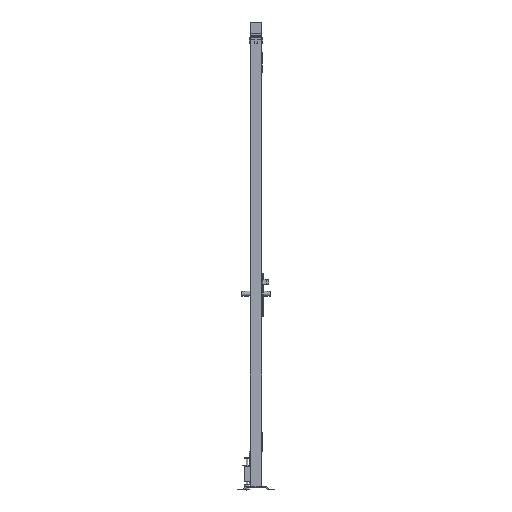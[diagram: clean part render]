
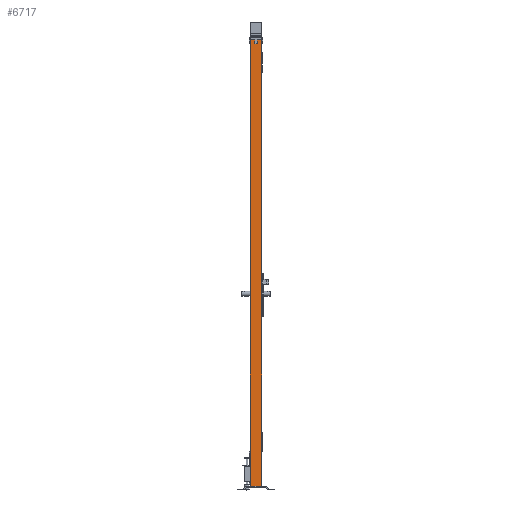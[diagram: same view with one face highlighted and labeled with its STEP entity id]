
A CAD part, left-side view. The second image highlights one B-rep face of the part: STEP entity #6717.
In plain terms, the highlighted planar face has unit normal (-1, 0, 0).
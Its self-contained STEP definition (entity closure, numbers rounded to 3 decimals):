
#948=FACE_OUTER_BOUND('',#1301,.T.);
#1301=EDGE_LOOP('',(#5109,#5110,#5111,#5112));
#1814=LINE('',#9974,#2587);
#1818=LINE('',#9983,#2591);
#1820=LINE('',#9986,#2593);
#1822=LINE('',#9989,#2595);
#2587=VECTOR('',#7994,1.);
#2591=VECTOR('',#8000,1.);
#2593=VECTOR('',#8004,1.);
#2595=VECTOR('',#8008,1.);
#3294=VERTEX_POINT('',#9971);
#3295=VERTEX_POINT('',#9973);
#3298=VERTEX_POINT('',#9980);
#3299=VERTEX_POINT('',#9982);
#3996=EDGE_CURVE('',#3294,#3295,#1814,.T.);
#4000=EDGE_CURVE('',#3298,#3299,#1818,.T.);
#4002=EDGE_CURVE('',#3295,#3298,#1820,.T.);
#4004=EDGE_CURVE('',#3294,#3299,#1822,.T.);
#5109=ORIENTED_EDGE('',*,*,#4004,.T.);
#5110=ORIENTED_EDGE('',*,*,#4000,.F.);
#5111=ORIENTED_EDGE('',*,*,#4002,.F.);
#5112=ORIENTED_EDGE('',*,*,#3996,.F.);
#6443=PLANE('',#7125);
#6717=ADVANCED_FACE('',(#948),#6443,.F.);
#7125=AXIS2_PLACEMENT_3D('',#9988,#8006,#8007);
#7994=DIRECTION('',(0.,-1.,0.));
#8000=DIRECTION('',(0.,1.,0.));
#8004=DIRECTION('',(0.,0.,-1.));
#8006=DIRECTION('center_axis',(1.,0.,0.));
#8007=DIRECTION('ref_axis',(0.,0.,-1.));
#8008=DIRECTION('',(0.,0.,-1.));
#9971=CARTESIAN_POINT('',(-30.,30.,2320.));
#9973=CARTESIAN_POINT('',(-30.,-30.,2320.));
#9974=CARTESIAN_POINT('',(-30.,0.,2320.));
#9980=CARTESIAN_POINT('',(-30.,-30.,20.));
#9982=CARTESIAN_POINT('',(-30.,30.,20.));
#9983=CARTESIAN_POINT('',(-30.,0.,20.));
#9986=CARTESIAN_POINT('',(-30.,-30.,1170.));
#9988=CARTESIAN_POINT('Origin',(-30.,0.,
1170.));
#9989=CARTESIAN_POINT('',(-30.,30.,1170.));
